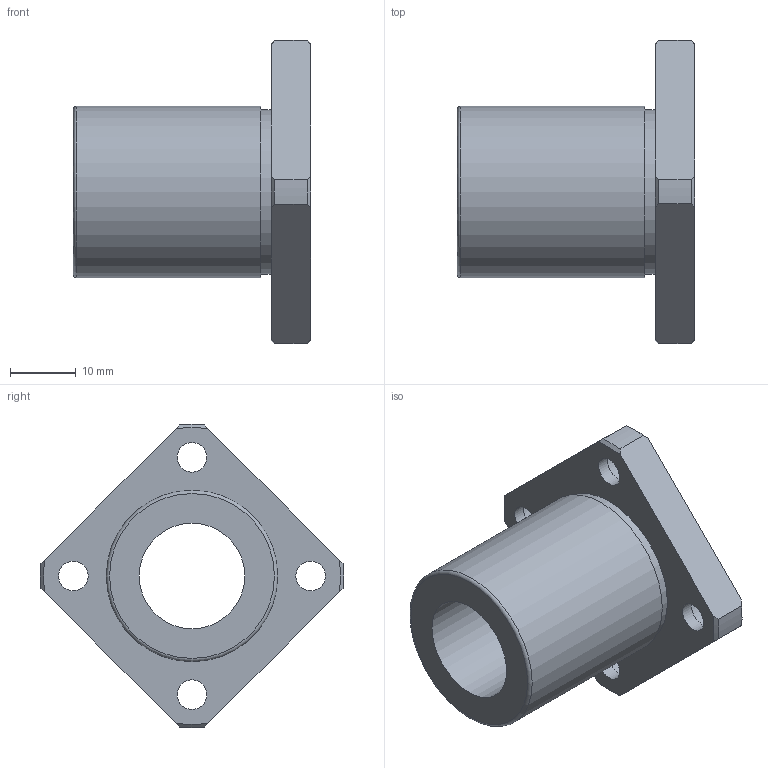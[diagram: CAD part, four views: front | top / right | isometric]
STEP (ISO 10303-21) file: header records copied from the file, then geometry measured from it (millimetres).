
FILE_DESCRIPTION(('STEP AP203'),'1');
FILE_NAME('//192.168.1.1/share/s-4 技術開発/s-4-4_CAD/s-4-4-3_見直し済み/002 修正済み/NF-V/NF-16VUU.step','2022-03-08T06:41:56',(' '),(' '),'Spatial InterOp 3D',' ',' ');
FILE_SCHEMA(('CONFIG_CONTROL_DESIGN'));
Length unit declared in the file: millimetre
Products named in the file (1): 1
Bounding box: 36 x 45.98 x 45.98 mm (x, y, z)
Volume: 15046.4 mm3; surface area: 7500 mm2
Topology: 1 solids, 1 shells, 36 faces, 89 edges, 61 vertices
Faces by surface type: cylinder 15, plane 12, cone 8, torus 1
Full cylindrical faces by diameter (mm): 4.5 x4, 7.5 x4, 16 x1, 25 x1, 26 x1
Entity records: 1026 total; most frequent: CARTESIAN_POINT 195, DIRECTION 168, ORIENTED_EDGE 142, AXIS2_PLACEMENT_3D 76, EDGE_CURVE 71, EDGE_LOOP 64, VERTEX_POINT 55, FACE_OUTER_BOUND 48
